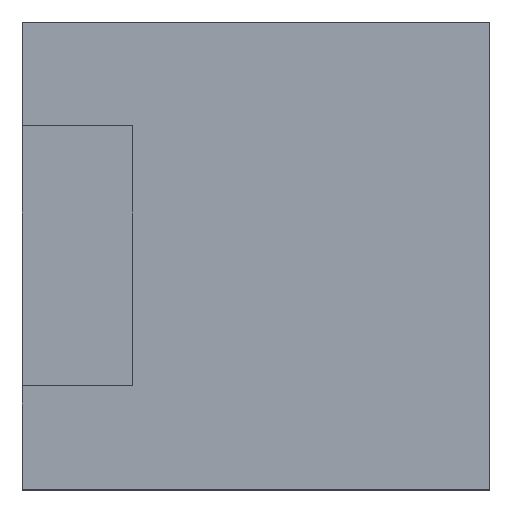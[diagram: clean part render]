
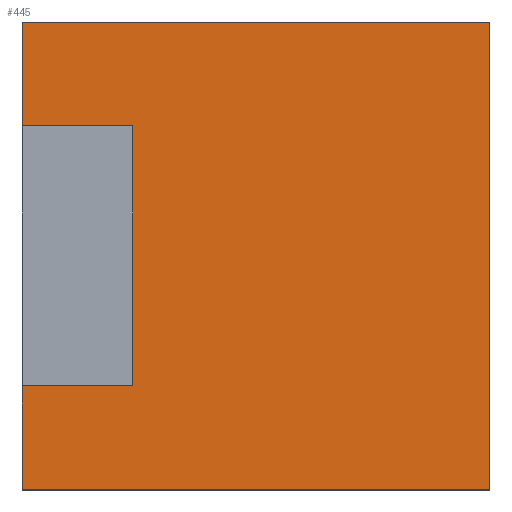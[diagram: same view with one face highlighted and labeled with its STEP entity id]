
A CAD part, top view. The second image highlights one B-rep face of the part: STEP entity #445.
In plain terms, the highlighted planar face has unit normal (0, 0, 1).
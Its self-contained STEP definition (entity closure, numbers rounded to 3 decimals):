
#44 = PLANE('',#45);
#45 = AXIS2_PLACEMENT_3D('',#46,#47,#48);
#46 = CARTESIAN_POINT('',(3.6,0.,0.));
#47 = DIRECTION('',(0.,1.,0.));
#48 = DIRECTION('',(-1.,0.,0.));
#72 = PLANE('',#73);
#73 = AXIS2_PLACEMENT_3D('',#74,#75,#76);
#74 = CARTESIAN_POINT('',(3.6,0.,0.));
#75 = DIRECTION('',(-1.,0.,0.));
#76 = DIRECTION('',(0.,0.,1.));
#100 = PLANE('',#101);
#101 = AXIS2_PLACEMENT_3D('',#102,#103,#104);
#102 = CARTESIAN_POINT('',(3.6,3.6,0.));
#103 = DIRECTION('',(0.,1.,0.));
#104 = DIRECTION('',(-1.,0.,0.));
#126 = PLANE('',#127);
#127 = AXIS2_PLACEMENT_3D('',#128,#129,#130);
#128 = CARTESIAN_POINT('',(0.,0.,0.));
#129 = DIRECTION('',(-1.,0.,0.));
#130 = DIRECTION('',(0.,0.,1.));
#142 = VERTEX_POINT('',#143);
#143 = CARTESIAN_POINT('',(3.6,0.,0.9));
#166 = VERTEX_POINT('',#167);
#167 = CARTESIAN_POINT('',(0.,0.,0.9));
#188 = EDGE_CURVE('',#142,#166,#189,.T.);
#189 = SURFACE_CURVE('',#190,(#194,#201),.PCURVE_S1.);
#190 = LINE('',#191,#192);
#191 = CARTESIAN_POINT('',(3.6,0.,0.9));
#192 = VECTOR('',#193,1.);
#193 = DIRECTION('',(-1.,0.,0.));
#194 = PCURVE('',#44,#195);
#195 = DEFINITIONAL_REPRESENTATION('',(#196),#200);
#196 = LINE('',#197,#198);
#197 = CARTESIAN_POINT('',(0.,0.9));
#198 = VECTOR('',#199,1.);
#199 = DIRECTION('',(1.,0.));
#200 = ( GEOMETRIC_REPRESENTATION_CONTEXT(2) 
PARAMETRIC_REPRESENTATION_CONTEXT() REPRESENTATION_CONTEXT('2D SPACE',''
  ) );
#201 = PCURVE('',#202,#207);
#202 = PLANE('',#203);
#203 = AXIS2_PLACEMENT_3D('',#204,#205,#206);
#204 = CARTESIAN_POINT('',(3.6,0.,0.9));
#205 = DIRECTION('',(0.,0.,1.));
#206 = DIRECTION('',(-1.,0.,0.));
#207 = DEFINITIONAL_REPRESENTATION('',(#208),#212);
#208 = LINE('',#209,#210);
#209 = CARTESIAN_POINT('',(0.,0.));
#210 = VECTOR('',#211,1.);
#211 = DIRECTION('',(1.,0.));
#212 = ( GEOMETRIC_REPRESENTATION_CONTEXT(2) 
PARAMETRIC_REPRESENTATION_CONTEXT() REPRESENTATION_CONTEXT('2D SPACE',''
  ) );
#219 = EDGE_CURVE('',#166,#220,#222,.T.);
#220 = VERTEX_POINT('',#221);
#221 = CARTESIAN_POINT('',(0.,0.8,0.9));
#222 = SURFACE_CURVE('',#223,(#227,#234),.PCURVE_S1.);
#223 = LINE('',#224,#225);
#224 = CARTESIAN_POINT('',(0.,0.,0.9));
#225 = VECTOR('',#226,1.);
#226 = DIRECTION('',(0.,1.,0.));
#227 = PCURVE('',#126,#228);
#228 = DEFINITIONAL_REPRESENTATION('',(#229),#233);
#229 = LINE('',#230,#231);
#230 = CARTESIAN_POINT('',(0.9,0.));
#231 = VECTOR('',#232,1.);
#232 = DIRECTION('',(0.,1.));
#233 = ( GEOMETRIC_REPRESENTATION_CONTEXT(2) 
PARAMETRIC_REPRESENTATION_CONTEXT() REPRESENTATION_CONTEXT('2D SPACE',''
  ) );
#234 = PCURVE('',#202,#235);
#235 = DEFINITIONAL_REPRESENTATION('',(#236),#240);
#236 = LINE('',#237,#238);
#237 = CARTESIAN_POINT('',(3.6,0.));
#238 = VECTOR('',#239,1.);
#239 = DIRECTION('',(0.,-1.));
#240 = ( GEOMETRIC_REPRESENTATION_CONTEXT(2) 
PARAMETRIC_REPRESENTATION_CONTEXT() REPRESENTATION_CONTEXT('2D SPACE',''
  ) );
#258 = PLANE('',#259);
#259 = AXIS2_PLACEMENT_3D('',#260,#261,#262);
#260 = CARTESIAN_POINT('',(0.85,0.8,0.9));
#261 = DIRECTION('',(0.,1.,0.));
#262 = DIRECTION('',(-1.,0.,0.));
#299 = VERTEX_POINT('',#300);
#300 = CARTESIAN_POINT('',(0.,2.8,0.9));
#314 = PLANE('',#315);
#315 = AXIS2_PLACEMENT_3D('',#316,#317,#318);
#316 = CARTESIAN_POINT('',(0.85,2.8,0.9));
#317 = DIRECTION('',(0.,1.,0.));
#318 = DIRECTION('',(-1.,0.,0.));
#326 = EDGE_CURVE('',#299,#327,#329,.T.);
#327 = VERTEX_POINT('',#328);
#328 = CARTESIAN_POINT('',(0.,3.6,0.9));
#329 = SURFACE_CURVE('',#330,(#334,#341),.PCURVE_S1.);
#330 = LINE('',#331,#332);
#331 = CARTESIAN_POINT('',(0.,0.,0.9));
#332 = VECTOR('',#333,1.);
#333 = DIRECTION('',(0.,1.,0.));
#334 = PCURVE('',#126,#335);
#335 = DEFINITIONAL_REPRESENTATION('',(#336),#340);
#336 = LINE('',#337,#338);
#337 = CARTESIAN_POINT('',(0.9,0.));
#338 = VECTOR('',#339,1.);
#339 = DIRECTION('',(0.,1.));
#340 = ( GEOMETRIC_REPRESENTATION_CONTEXT(2) 
PARAMETRIC_REPRESENTATION_CONTEXT() REPRESENTATION_CONTEXT('2D SPACE',''
  ) );
#341 = PCURVE('',#202,#342);
#342 = DEFINITIONAL_REPRESENTATION('',(#343),#347);
#343 = LINE('',#344,#345);
#344 = CARTESIAN_POINT('',(3.6,0.));
#345 = VECTOR('',#346,1.);
#346 = DIRECTION('',(0.,-1.));
#347 = ( GEOMETRIC_REPRESENTATION_CONTEXT(2) 
PARAMETRIC_REPRESENTATION_CONTEXT() REPRESENTATION_CONTEXT('2D SPACE',''
  ) );
#374 = VERTEX_POINT('',#375);
#375 = CARTESIAN_POINT('',(3.6,3.6,0.9));
#398 = EDGE_CURVE('',#374,#327,#399,.T.);
#399 = SURFACE_CURVE('',#400,(#404,#411),.PCURVE_S1.);
#400 = LINE('',#401,#402);
#401 = CARTESIAN_POINT('',(3.6,3.6,0.9));
#402 = VECTOR('',#403,1.);
#403 = DIRECTION('',(-1.,0.,0.));
#404 = PCURVE('',#100,#405);
#405 = DEFINITIONAL_REPRESENTATION('',(#406),#410);
#406 = LINE('',#407,#408);
#407 = CARTESIAN_POINT('',(0.,0.9));
#408 = VECTOR('',#409,1.);
#409 = DIRECTION('',(1.,0.));
#410 = ( GEOMETRIC_REPRESENTATION_CONTEXT(2) 
PARAMETRIC_REPRESENTATION_CONTEXT() REPRESENTATION_CONTEXT('2D SPACE',''
  ) );
#411 = PCURVE('',#202,#412);
#412 = DEFINITIONAL_REPRESENTATION('',(#413),#417);
#413 = LINE('',#414,#415);
#414 = CARTESIAN_POINT('',(0.,-3.6));
#415 = VECTOR('',#416,1.);
#416 = DIRECTION('',(1.,0.));
#417 = ( GEOMETRIC_REPRESENTATION_CONTEXT(2) 
PARAMETRIC_REPRESENTATION_CONTEXT() REPRESENTATION_CONTEXT('2D SPACE',''
  ) );
#424 = EDGE_CURVE('',#142,#374,#425,.T.);
#425 = SURFACE_CURVE('',#426,(#430,#437),.PCURVE_S1.);
#426 = LINE('',#427,#428);
#427 = CARTESIAN_POINT('',(3.6,0.,0.9));
#428 = VECTOR('',#429,1.);
#429 = DIRECTION('',(0.,1.,0.));
#430 = PCURVE('',#72,#431);
#431 = DEFINITIONAL_REPRESENTATION('',(#432),#436);
#432 = LINE('',#433,#434);
#433 = CARTESIAN_POINT('',(0.9,0.));
#434 = VECTOR('',#435,1.);
#435 = DIRECTION('',(0.,1.));
#436 = ( GEOMETRIC_REPRESENTATION_CONTEXT(2) 
PARAMETRIC_REPRESENTATION_CONTEXT() REPRESENTATION_CONTEXT('2D SPACE',''
  ) );
#437 = PCURVE('',#202,#438);
#438 = DEFINITIONAL_REPRESENTATION('',(#439),#443);
#439 = LINE('',#440,#441);
#440 = CARTESIAN_POINT('',(0.,0.));
#441 = VECTOR('',#442,1.);
#442 = DIRECTION('',(0.,-1.));
#443 = ( GEOMETRIC_REPRESENTATION_CONTEXT(2) 
PARAMETRIC_REPRESENTATION_CONTEXT() REPRESENTATION_CONTEXT('2D SPACE',''
  ) );
#445 = ADVANCED_FACE('',(#446),#202,.T.);
#446 = FACE_BOUND('',#447,.T.);
#447 = EDGE_LOOP('',(#448,#449,#450,#451,#452,#453,#476,#504));
#448 = ORIENTED_EDGE('',*,*,#219,.F.);
#449 = ORIENTED_EDGE('',*,*,#188,.F.);
#450 = ORIENTED_EDGE('',*,*,#424,.T.);
#451 = ORIENTED_EDGE('',*,*,#398,.T.);
#452 = ORIENTED_EDGE('',*,*,#326,.F.);
#453 = ORIENTED_EDGE('',*,*,#454,.F.);
#454 = EDGE_CURVE('',#455,#299,#457,.T.);
#455 = VERTEX_POINT('',#456);
#456 = CARTESIAN_POINT('',(0.85,2.8,0.9));
#457 = SURFACE_CURVE('',#458,(#462,#469),.PCURVE_S1.);
#458 = LINE('',#459,#460);
#459 = CARTESIAN_POINT('',(0.85,2.8,0.9));
#460 = VECTOR('',#461,1.);
#461 = DIRECTION('',(-1.,0.,0.));
#462 = PCURVE('',#202,#463);
#463 = DEFINITIONAL_REPRESENTATION('',(#464),#468);
#464 = LINE('',#465,#466);
#465 = CARTESIAN_POINT('',(2.75,-2.8));
#466 = VECTOR('',#467,1.);
#467 = DIRECTION('',(1.,0.));
#468 = ( GEOMETRIC_REPRESENTATION_CONTEXT(2) 
PARAMETRIC_REPRESENTATION_CONTEXT() REPRESENTATION_CONTEXT('2D SPACE',''
  ) );
#469 = PCURVE('',#314,#470);
#470 = DEFINITIONAL_REPRESENTATION('',(#471),#475);
#471 = LINE('',#472,#473);
#472 = CARTESIAN_POINT('',(0.,0.));
#473 = VECTOR('',#474,1.);
#474 = DIRECTION('',(1.,0.));
#475 = ( GEOMETRIC_REPRESENTATION_CONTEXT(2) 
PARAMETRIC_REPRESENTATION_CONTEXT() REPRESENTATION_CONTEXT('2D SPACE',''
  ) );
#476 = ORIENTED_EDGE('',*,*,#477,.F.);
#477 = EDGE_CURVE('',#478,#455,#480,.T.);
#478 = VERTEX_POINT('',#479);
#479 = CARTESIAN_POINT('',(0.85,0.8,0.9));
#480 = SURFACE_CURVE('',#481,(#485,#492),.PCURVE_S1.);
#481 = LINE('',#482,#483);
#482 = CARTESIAN_POINT('',(0.85,0.8,0.9));
#483 = VECTOR('',#484,1.);
#484 = DIRECTION('',(0.,1.,0.));
#485 = PCURVE('',#202,#486);
#486 = DEFINITIONAL_REPRESENTATION('',(#487),#491);
#487 = LINE('',#488,#489);
#488 = CARTESIAN_POINT('',(2.75,-0.8));
#489 = VECTOR('',#490,1.);
#490 = DIRECTION('',(0.,-1.));
#491 = ( GEOMETRIC_REPRESENTATION_CONTEXT(2) 
PARAMETRIC_REPRESENTATION_CONTEXT() REPRESENTATION_CONTEXT('2D SPACE',''
  ) );
#492 = PCURVE('',#493,#498);
#493 = PLANE('',#494);
#494 = AXIS2_PLACEMENT_3D('',#495,#496,#497);
#495 = CARTESIAN_POINT('',(0.85,0.8,0.9));
#496 = DIRECTION('',(-1.,0.,0.));
#497 = DIRECTION('',(0.,0.,1.));
#498 = DEFINITIONAL_REPRESENTATION('',(#499),#503);
#499 = LINE('',#500,#501);
#500 = CARTESIAN_POINT('',(0.,0.));
#501 = VECTOR('',#502,1.);
#502 = DIRECTION('',(0.,1.));
#503 = ( GEOMETRIC_REPRESENTATION_CONTEXT(2) 
PARAMETRIC_REPRESENTATION_CONTEXT() REPRESENTATION_CONTEXT('2D SPACE',''
  ) );
#504 = ORIENTED_EDGE('',*,*,#505,.T.);
#505 = EDGE_CURVE('',#478,#220,#506,.T.);
#506 = SURFACE_CURVE('',#507,(#511,#518),.PCURVE_S1.);
#507 = LINE('',#508,#509);
#508 = CARTESIAN_POINT('',(0.85,0.8,0.9));
#509 = VECTOR('',#510,1.);
#510 = DIRECTION('',(-1.,0.,0.));
#511 = PCURVE('',#202,#512);
#512 = DEFINITIONAL_REPRESENTATION('',(#513),#517);
#513 = LINE('',#514,#515);
#514 = CARTESIAN_POINT('',(2.75,-0.8));
#515 = VECTOR('',#516,1.);
#516 = DIRECTION('',(1.,0.));
#517 = ( GEOMETRIC_REPRESENTATION_CONTEXT(2) 
PARAMETRIC_REPRESENTATION_CONTEXT() REPRESENTATION_CONTEXT('2D SPACE',''
  ) );
#518 = PCURVE('',#258,#519);
#519 = DEFINITIONAL_REPRESENTATION('',(#520),#524);
#520 = LINE('',#521,#522);
#521 = CARTESIAN_POINT('',(0.,0.));
#522 = VECTOR('',#523,1.);
#523 = DIRECTION('',(1.,0.));
#524 = ( GEOMETRIC_REPRESENTATION_CONTEXT(2) 
PARAMETRIC_REPRESENTATION_CONTEXT() REPRESENTATION_CONTEXT('2D SPACE',''
  ) );
